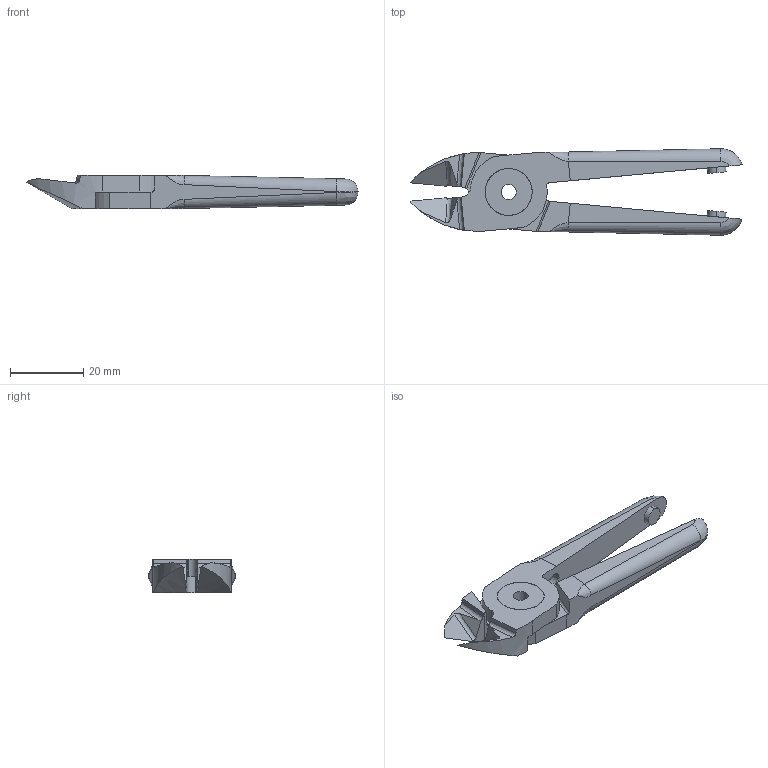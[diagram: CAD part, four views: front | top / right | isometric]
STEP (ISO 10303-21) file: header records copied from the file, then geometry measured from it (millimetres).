
FILE_DESCRIPTION (( 'STEP AP214' ), '1' );
FILE_NAME ('N10AP.STEP', '2019-11-29T03:29:30', ( '微软用户' ), ( '微软中国' ), 'SwSTEP 2.0', 'SolidWorks 2016', '' );
FILE_SCHEMA (( 'AUTOMOTIVE_DESIGN' ));
Length unit declared in the file: millimetre
Products named in the file (4): BR2; BR1; BS; N10AP
Assembly tree (3 placements, depth 2):
  N10AP
    BS
    BR1
    BR2
Bounding box: 90.47 x 23.56 x 9 mm (x, y, z)
Volume: 9494.6 mm3; surface area: 6532.4 mm2
Topology: 3 solids, 3 shells, 112 faces, 302 edges, 190 vertices
Faces by surface type: plane 42, cylinder 27, bspline 25, cone 18
Entity records: 4939 total; most frequent: CARTESIAN_POINT 2290, ORIENTED_EDGE 584, DIRECTION 443, EDGE_CURVE 292, VERTEX_POINT 190, AXIS2_PLACEMENT_3D 152, LINE 139, VECTOR 139
